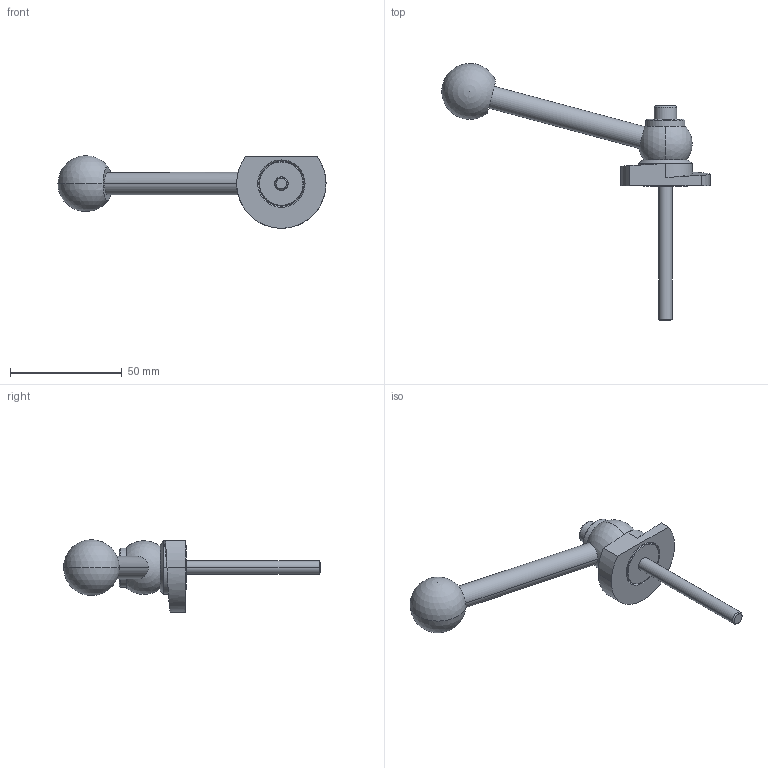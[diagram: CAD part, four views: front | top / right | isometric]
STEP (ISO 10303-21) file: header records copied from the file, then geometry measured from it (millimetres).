
FILE_DESCRIPTION (( 'STEP AP214' ), '1' );
FILE_NAME ('918.1-40-KVS-R-60.step', '2024-05-15T13:00:34', ( '' ), ( '' ), 'SwSTEP 2.0', 'SolidWorks 2022', '' );
FILE_SCHEMA (( 'AUTOMOTIVE_DESIGN' ));
Length unit declared in the file: millimetre
Products named in the file (1): 918.1-40-KVS-R-60
Bounding box: 119.95 x 114.99 x 32.5 mm (x, y, z)
Volume: 31446.6 mm3; surface area: 11967 mm2
Topology: 1 solids, 1 shells, 64 faces, 147 edges, 93 vertices
Faces by surface type: cylinder 22, plane 20, cone 14, sphere 4, torus 2, bspline 2
Entity records: 2045 total; most frequent: CARTESIAN_POINT 590, DIRECTION 321, ORIENTED_EDGE 274, EDGE_CURVE 137, AXIS2_PLACEMENT_3D 131, VERTEX_POINT 87, EDGE_LOOP 76, CIRCLE 68
